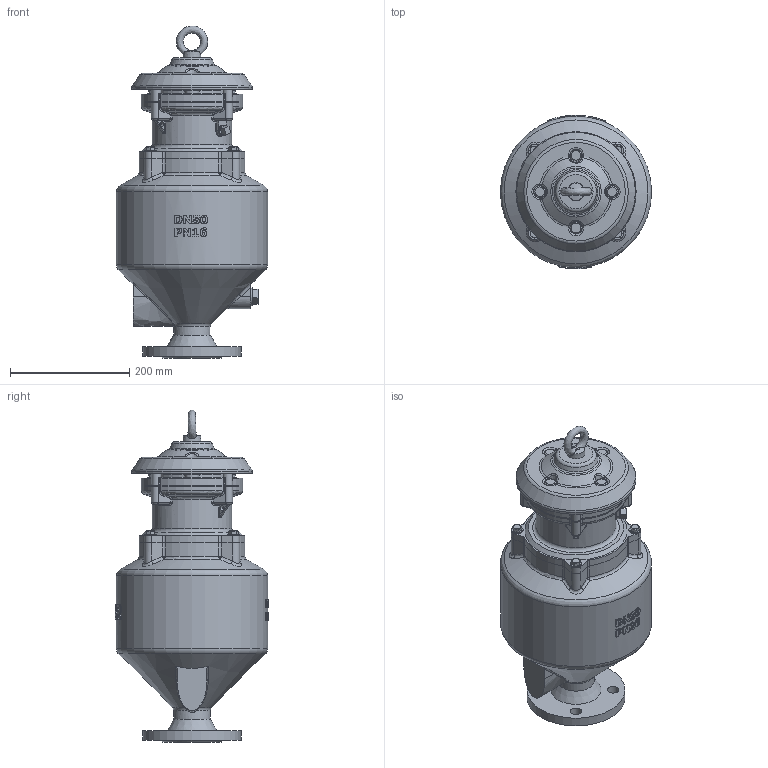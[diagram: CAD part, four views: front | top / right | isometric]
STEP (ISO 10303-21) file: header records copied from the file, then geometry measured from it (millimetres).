
FILE_DESCRIPTION(('STEP AP203'), '1');
FILE_NAME('Âîçäóøíûé êëàïàí FLOWJET SR', '', ('UNSPECIFIED'), ('UNSPECIFIED'), 'C3D Converter', 'C3D Toolkit', '');
FILE_SCHEMA(('CONFIG_CONTROL_DESIGN'));
Length unit declared in the file: millimetre
Assembly tree (42 placements, depth 2):
  (unnamed)
    (unnamed)
    (unnamed)
    (unnamed)
    (unnamed)
    (unnamed)
    (unnamed)
    (unnamed)
    (unnamed)
    (unnamed)
    (unnamed)
    (unnamed)
    (unnamed)  x4
    (unnamed)
    (unnamed)  x4
    (unnamed)
    (unnamed)  x4
    (unnamed)  x3
    (unnamed)
    (unnamed)  x3
    (unnamed)  x4
    (unnamed)
    (unnamed)
    (unnamed)  x4
Bounding box: 254 x 257.99 x 557.97 mm (x, y, z)
Volume: 3842937.4 mm3; surface area: 1195863.3 mm2
Topology: 43 solids, 44 shells, 1644 faces, 4161 edges, 2647 vertices
Faces by surface type: plane 513, bspline 420, cylinder 362, extrusion 134, torus 131, cone 75, sphere 9
Full cylindrical faces by diameter (mm): 5.35 x4, 5.5 x4, 6 x16, 6.4 x4, 8 x18, 9 x6, 9.188 x4, 9.4 x2, 10 x20, 10.5 x4, 12 x9, 12.8 x4, 13 x4, 14 x4, 15 x1, 16 x4, 18 x2, 19 x4, 20 x4, 21 x1, 21.3 x2, 27 x1, 29.239 x1, 30 x1, 44 x1, 50 x2, 62 x1, 91 x1, 93 x1, 98 x1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
Entity records: 120372 total; most frequent: CARTESIAN_POINT 85702, ORIENTED_EDGE 6920, DIRECTION 4815, EDGE_CURVE 3460, VERTEX_POINT 2331, AXIS2_PLACEMENT_3D 1933, EDGE_LOOP 1893, B_SPLINE_CURVE_WITH_KNOTS 1754
